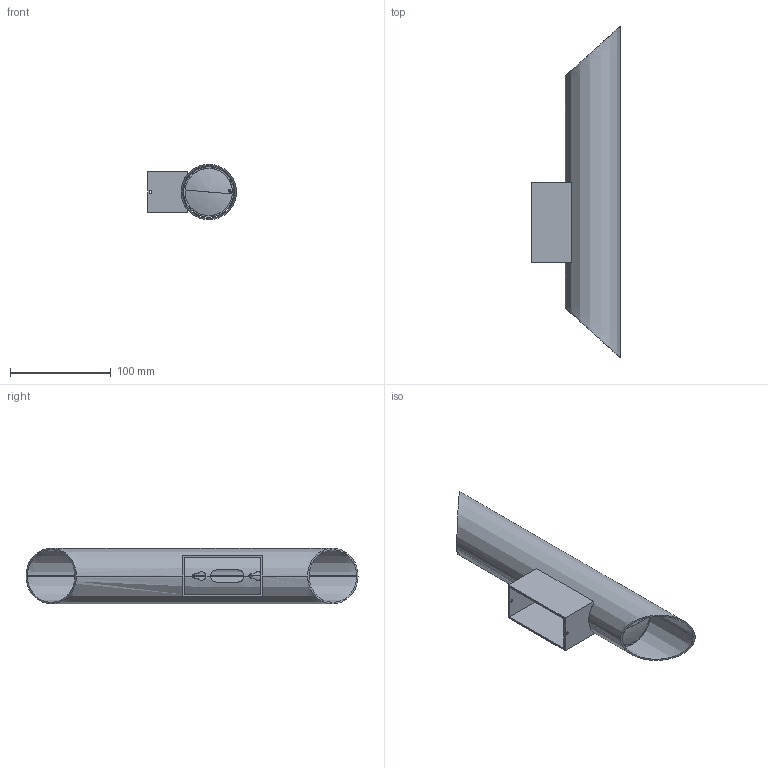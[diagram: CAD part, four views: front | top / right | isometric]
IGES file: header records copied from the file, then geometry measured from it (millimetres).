
Start section: SolidWorks IGES file using analytic representation for surfaces
Global section: file name: Z:\Modele 3D_WWW\_KOLEKCJE_WWW\EYE-WALL\EYE-WALL-CUT-II-7993-7994-7995\EYE-WALL-CUT-II-7993-7994-7995.IGS; native system: SolidWorks 2020; preprocessor: SolidWorks 2020; author: gabriela.tworek; date: 210316.220710; units: millimetre
Bounding box: 88.29 x 330 x 55 mm (x, y, z)
Surface area: 127928.8 mm2 (no closed solid volume)
Topology: 0 solids, 0 shells, 153 faces, 3244 edges, 3240 vertices
Faces by surface type: bspline 99, revolution 54
